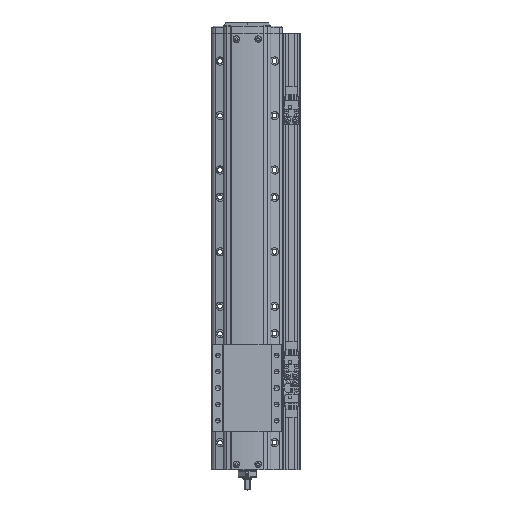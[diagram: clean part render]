
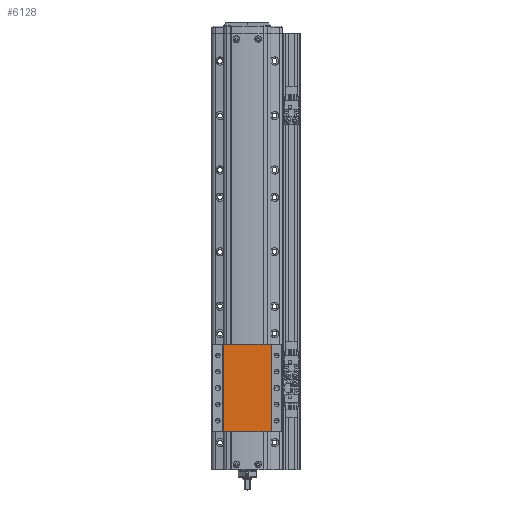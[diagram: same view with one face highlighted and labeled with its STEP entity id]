
A CAD part, top view. The second image highlights one B-rep face of the part: STEP entity #6128.
In plain terms, the highlighted planar face has unit normal (0, 0, 1).
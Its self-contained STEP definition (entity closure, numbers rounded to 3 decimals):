
#6128=ADVANCED_FACE('',(#12556),#12557,.F.);
#12556=FACE_OUTER_BOUND('',#20087,.T.);
#12557=PLANE('',#20088);
#20087=EDGE_LOOP('',(#37465,#37466,#37467,#37468));
#20088=AXIS2_PLACEMENT_3D('',#37469,#37470,#37471);
#37465=ORIENTED_EDGE('',*,*,#47179,.F.);
#37466=ORIENTED_EDGE('',*,*,#48457,.F.);
#37467=ORIENTED_EDGE('',*,*,#42306,.F.);
#37468=ORIENTED_EDGE('',*,*,#47919,.T.);
#37469=CARTESIAN_POINT('',(311.,150.0,26.7));
#37470=DIRECTION('',(0.,0.,-1.0));
#37471=DIRECTION('',(-1.0,0.,0.));
#42306=EDGE_CURVE('',#50774,#50776,#50777,.T.);
#47179=EDGE_CURVE('',#58296,#58298,#58299,.T.);
#47919=EDGE_CURVE('',#50774,#58298,#59224,.T.);
#48457=EDGE_CURVE('',#50776,#58296,#59828,.T.);
#50774=VERTEX_POINT('',#62782);
#50776=VERTEX_POINT('',#62785);
#50777=LINE('',#62786,#62787);
#58296=VERTEX_POINT('',#73583);
#58298=VERTEX_POINT('',#73586);
#58299=LINE('',#73587,#73588);
#59224=LINE('',#74938,#74939);
#59828=LINE('',#75821,#75822);
#62782=CARTESIAN_POINT('',(322.,150.0,26.7));
#62785=CARTESIAN_POINT('',(278.,150.0,26.7));
#62786=CARTESIAN_POINT('',(322.,150.0,26.7));
#62787=VECTOR('',#77904,10.0);
#73583=CARTESIAN_POINT('',(278.,230.0,26.7));
#73586=CARTESIAN_POINT('',(322.,230.0,26.7));
#73587=CARTESIAN_POINT('',(300.,230.0,26.7));
#73588=VECTOR('',#83712,10.0);
#74938=CARTESIAN_POINT('',(322.,150.0,26.7));
#74939=VECTOR('',#84437,10.0);
#75821=CARTESIAN_POINT('',(278.,150.0,26.7));
#75822=VECTOR('',#84919,10.0);
#77904=DIRECTION('',(-1.0,0.,0.));
#83712=DIRECTION('',(1.0,0.,0.));
#84437=DIRECTION('',(0.,1.0,0.));
#84919=DIRECTION('',(0.,1.0,0.));
